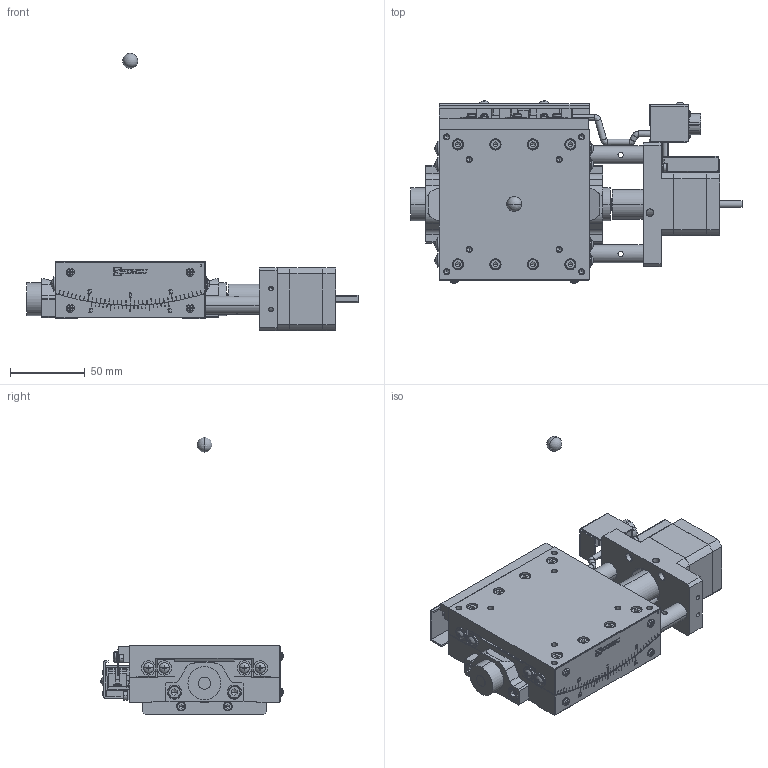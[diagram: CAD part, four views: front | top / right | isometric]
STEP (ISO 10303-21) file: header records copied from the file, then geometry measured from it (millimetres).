
FILE_DESCRIPTION( (''), '2;1');
FILE_NAME ('SA10A-R2M01.stp','2021-11-19T12:47:24',(''),(''),'spGate 17.5.5','','');
FILE_SCHEMA (('AUTOMOTIVE_DESIGN'));
Length unit declared in the file: millimetre
Products named in the file (4): Assembly; SA10A-R2M01-prt0; SA10A-R2M01-prt1; SA10A-R2M01-prt2
Assembly tree (3 placements, depth 2):
  Assembly
    SA10A-R2M01-prt0
    SA10A-R2M01-prt1
    SA10A-R2M01-prt2
Bounding box: 221.5 x 121.57 x 185 mm (x, y, z)
Volume: 534398.3 mm3; surface area: 126870.2 mm2
Topology: 3 solids, 5 shells, 2659 faces, 6732 edges, 4199 vertices
Faces by surface type: plane 1775, cylinder 531, bspline 306, sphere 47
Entity records: 135950 total; most frequent: CARTESIAN_POINT 20109, ORIENTED_EDGE 13260, DIRECTION 12413, COLOUR_RGB 9292, PRESENTATION_STYLE_ASSIGNMENT 9292, STYLED_ITEM 9292, EDGE_CURVE 6630, DRAUGHTING_PRE_DEFINED_CURVE_FONT 6630
